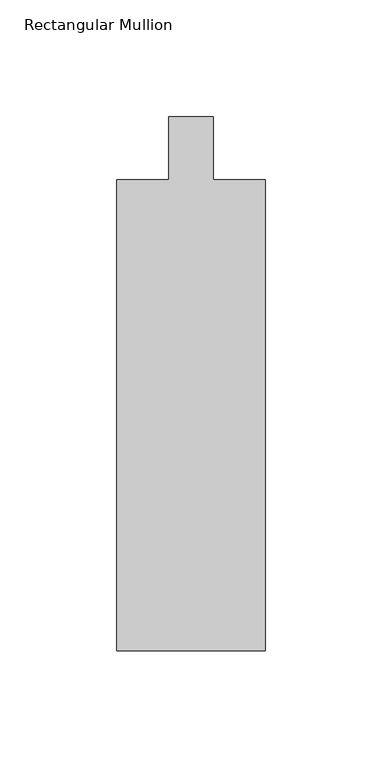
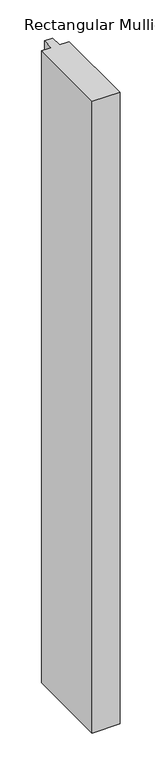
"""IFC4 building model written with IfcOpenShell, lengths in millimetres: member geometry."""

from ifc_helpers import new_model, si_unit, frame, origin, place, context, project, spatial, polyline, outline, extrude, source, transform, mapped, element, save


def rectangular_mullion_a48a72ba(model_context):
    return source(origin(), model_context, "Body", "SweptSolid", [
        extrude(outline(polyline([(0.0, -228.6), (-63.5, -228.6), (-63.5, -26.9875), (-41.275, -26.9875), (-41.275, 0.0), (-22.225, 0.0), (-22.225, -26.9875), (0.0, -26.9875), (0.0, -228.6)])), frame((0.0, 0.0, -1531.62), z_axis=(0.0, 0.0, 1.0), x_axis=(1.0, 0.0, 0.0)), (0.0, 0.0, 1.0), 1531.62),
    ])


if __name__ == "__main__":
    model = new_model("IFC4")
    model_context = context("Model", 3, world=origin())
    ifc_project = project(units=[si_unit("LENGTHUNIT", "METRE", prefix="MILLI")], contexts=[model_context])
    site = spatial("IfcSite", under=ifc_project)
    building = spatial("IfcBuilding", under=site)
    placement = place(None, origin())
    rectangular_mullion_shape = rectangular_mullion_a48a72ba(model_context)
    element("IfcMember", 1, ObjectType="Rectangular Mullion : 2 1/2\" x 8\" - Capless", at=placement, inside=building, context=model_context, shape_type="MappedRepresentation", body=[
        mapped(rectangular_mullion_shape, transform((0.0, 0.0, 0.0), x_axis=(1.0, 0.0, 0.0), y_axis=(0.0, 1.0, 0.0), z_axis=(0.0, 0.0, 1.0))),
    ])
    save(model, "model.ifc")
